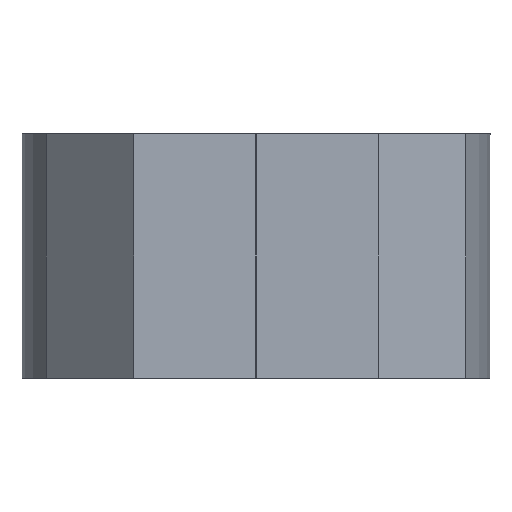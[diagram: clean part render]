
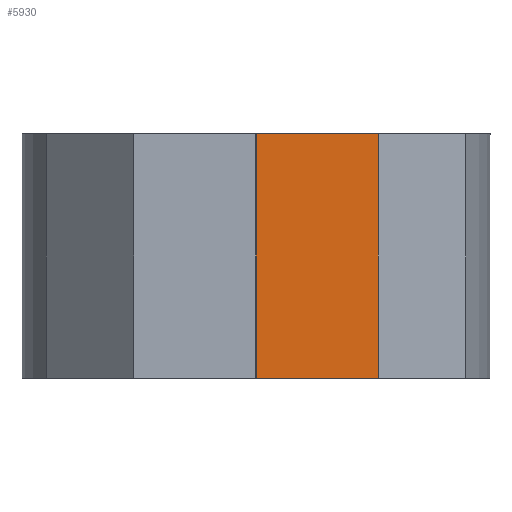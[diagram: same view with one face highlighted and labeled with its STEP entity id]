
A CAD part, left-side view. The second image highlights one B-rep face of the part: STEP entity #5930.
In plain terms, the highlighted planar face has unit normal (-1, 0, 0).
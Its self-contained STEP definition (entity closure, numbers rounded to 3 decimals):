
#3 = VERTEX_POINT ( 'NONE', #4731 ) ;
#133 = CARTESIAN_POINT ( 'NONE',  ( -28., -3., -12. ) ) ;
#236 = LINE ( 'NONE', #471, #3103 ) ;
#287 = DIRECTION ( 'NONE',  ( 0., 0., 1. ) ) ;
#291 = VERTEX_POINT ( 'NONE', #2278 ) ;
#392 = CARTESIAN_POINT ( 'NONE',  ( -28., 0., 0. ) ) ;
#471 = CARTESIAN_POINT ( 'NONE',  ( -28., 0., -6. ) ) ;
#547 = FACE_OUTER_BOUND ( 'NONE', #2419, .T. ) ;
#834 = VECTOR ( 'NONE', #4708, 1000. ) ;
#938 = ORIENTED_EDGE ( 'NONE', *, *, #6888, .F. ) ;
#1045 = DIRECTION ( 'NONE',  ( 0., 0., -1. ) ) ;
#1106 = AXIS2_PLACEMENT_3D ( 'NONE', #7085, #3710, #287 ) ;
#1177 = EDGE_CURVE ( 'NONE', #4714, #3, #2213, .T. ) ;
#1327 = ORIENTED_EDGE ( 'NONE', *, *, #1177, .T. ) ;
#2213 = LINE ( 'NONE', #133, #834 ) ;
#2278 = CARTESIAN_POINT ( 'NONE',  ( -28., 0., 0. ) ) ;
#2419 = EDGE_LOOP ( 'NONE', ( #1327, #938, #5782, #6216 ) ) ;
#2638 = EDGE_CURVE ( 'NONE', #291, #4175, #5134, .T. ) ;
#3103 = VECTOR ( 'NONE', #1045, 1000. ) ;
#3119 = CARTESIAN_POINT ( 'NONE',  ( -28., 0., -12. ) ) ;
#3592 = VECTOR ( 'NONE', #4399, 1000. ) ;
#3710 = DIRECTION ( 'NONE',  ( -1., 0., 0. ) ) ;
#4075 = DIRECTION ( 'NONE',  ( 0., 0., -1. ) ) ;
#4175 = VERTEX_POINT ( 'NONE', #5577 ) ;
#4195 = VECTOR ( 'NONE', #4075, 1000. ) ;
#4267 = PLANE ( 'NONE',  #1106 ) ;
#4399 = DIRECTION ( 'NONE',  ( 0., -1., 0. ) ) ;
#4708 = DIRECTION ( 'NONE',  ( 0., -1., 0. ) ) ;
#4714 = VERTEX_POINT ( 'NONE', #3119 ) ;
#4731 = CARTESIAN_POINT ( 'NONE',  ( -28., -6., -12. ) ) ;
#5134 = LINE ( 'NONE', #392, #3592 ) ;
#5234 = EDGE_CURVE ( 'NONE', #291, #4714, #236, .T. ) ;
#5577 = CARTESIAN_POINT ( 'NONE',  ( -28., -6., 0. ) ) ;
#5782 = ORIENTED_EDGE ( 'NONE', *, *, #2638, .F. ) ;
#5930 = ADVANCED_FACE ( 'NONE', ( #547 ), #4267, .T. ) ;
#6216 = ORIENTED_EDGE ( 'NONE', *, *, #5234, .T. ) ;
#6881 = CARTESIAN_POINT ( 'NONE',  ( -28., -6., -6. ) ) ;
#6888 = EDGE_CURVE ( 'NONE', #4175, #3, #7185, .T. ) ;
#7085 = CARTESIAN_POINT ( 'NONE',  ( -28., -6., -12. ) ) ;
#7185 = LINE ( 'NONE', #6881, #4195 ) ;
